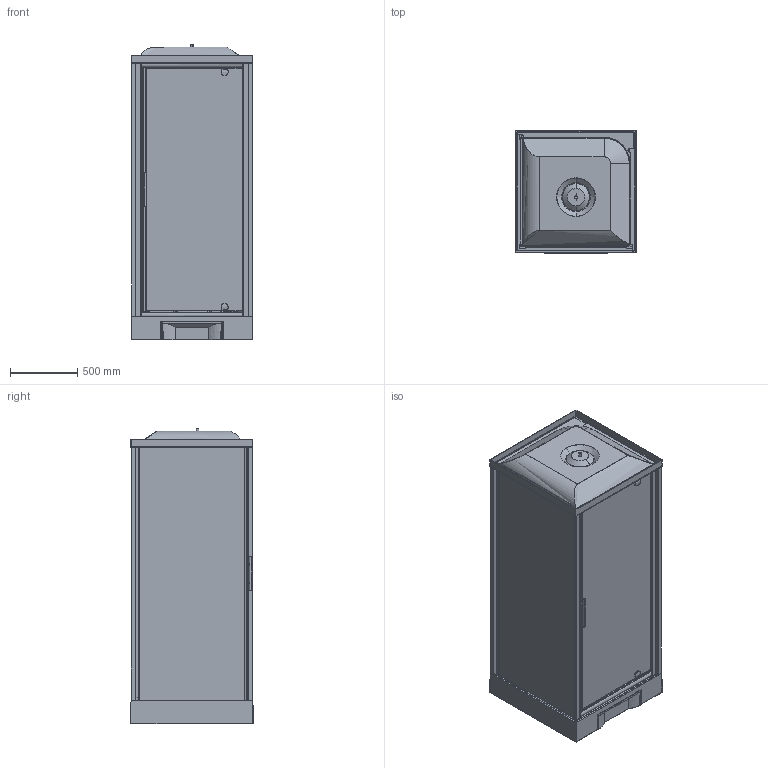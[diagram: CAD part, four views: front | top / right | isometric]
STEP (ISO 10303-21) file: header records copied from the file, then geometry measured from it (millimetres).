
FILE_DESCRIPTION(('STEP AP203'),'2;1');
FILE_NAME('NNH GF 90 T 19 F.stp','2015-09-04T15:20:08',(''),(''),'2014.1.117','THINKDESIGN','');
FILE_SCHEMA(('CONFIG_CONTROL_DESIGN'));
Length unit declared in the file: millimetre
Products named in the file (1): top
Bounding box: 904 x 907.51 x 2192.4 mm (x, y, z)
Volume: 210865929.2 mm3; surface area: 20695774.6 mm2
Topology: 40 solids, 40 shells, 795 faces, 1913 edges, 1210 vertices
Faces by surface type: bspline 426, plane 255, cylinder 114
Entity records: 91024 total; most frequent: CARTESIAN_POINT 75328, ORIENTED_EDGE 3770, DIRECTION 2170, EDGE_CURVE 1885, VERTEX_POINT 1202, EDGE_LOOP 827, FACE_OUTER_BOUND 793, ADVANCED_FACE 793
